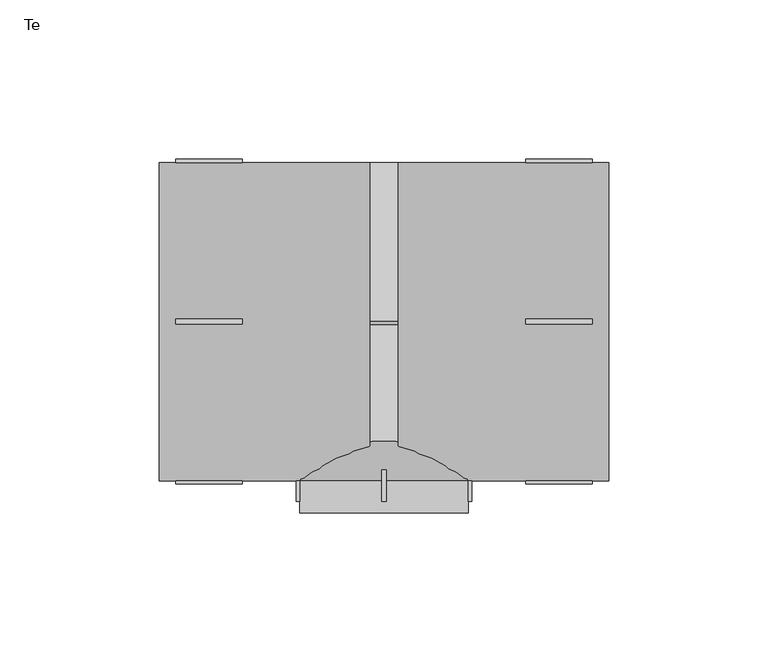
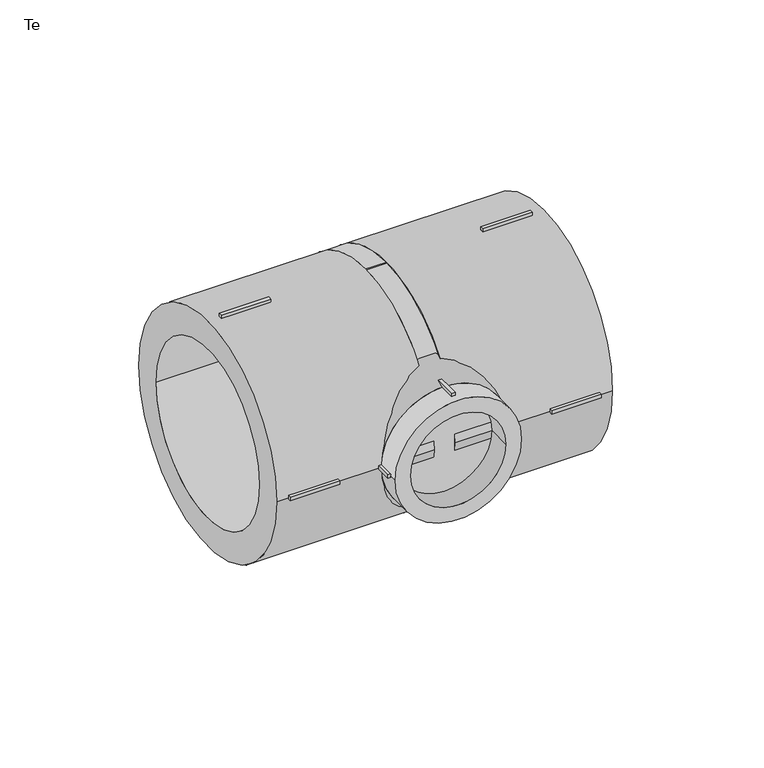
"""IFC4 building model written with IfcOpenShell, lengths in millimetres: pipe fitting geometry, EGB_VASEN_ PPR_Te WXR300_Te reducida WXR310 : Te."""

import ifcopenshell
import ifcopenshell.guid

model = None  # the IFC model being written
_history = None  # IfcOwnerHistory: only IFC2X3 demands one
_inside = {}  # id of a spatial element -> (the spatial element, [elements in it])
_under = {}  # id of a project, library or spatial element -> (it, [spatial elements below it])
_declared = {}  # id of a project -> (the project, [libraries it declares])
_typed = {}  # id of a type object -> (the type object, [elements of that type])
_made_of = {}  # id of a material, layer set ... -> (it, [elements and type objects made of it])


def new_model(schema):
    """Start an empty IFC model of exactly this schema.

    Asked for "IFC4X3", IfcOpenShell would pick the latest addendum, in which some entities
    have other attributes; the version numbers below select the first issue.
    IFC2X3 requires an IfcOwnerHistory on every rooted entity: one is made here for all.
    """
    global model, _history
    if schema == "IFC4X3":
        model = ifcopenshell.file(schema_version=(4, 3, 0, 0))
    else:
        model = ifcopenshell.file(schema=schema)
    _inside.clear()
    _under.clear()
    _declared.clear()
    _typed.clear()
    _made_of.clear()
    _history = None
    if model.schema == "IFC2X3":
        org = make("IfcOrganization", Name="unknown")
        user = make(
            "IfcPersonAndOrganization",
            ThePerson=make("IfcPerson", FamilyName="unknown"),
            TheOrganization=org,
        )
        app = make(
            "IfcApplication",
            ApplicationDeveloper=org,
            Version="unknown",
            ApplicationFullName="unknown",
            ApplicationIdentifier="unknown",
        )
        _history = make(
            "IfcOwnerHistory",
            OwningUser=user,
            OwningApplication=app,
            ChangeAction="ADDED",
            CreationDate=0,
        )
    return model


def make(cls, **values):
    """One entity of the class cls with the attributes given. An attribute that is None is left unset."""
    return model.create_entity(
        cls, **{name: value for name, value in values.items() if value is not None}
    )


def rooted(cls, **values):
    """An entity with a GlobalId (a new one), such as an element, a storey or a relation."""
    return make(cls, GlobalId=ifcopenshell.guid.new(), OwnerHistory=_history, **values)


def si_unit(unit_type, name, prefix=None):
    """IfcSIUnit, for example si_unit("LENGTHUNIT", "METRE", prefix="MILLI")."""
    return make("IfcSIUnit", UnitType=unit_type, Prefix=prefix, Name=name)


def assignment(units):
    """IfcUnitAssignment: the units of a project."""
    return None if units is None else make("IfcUnitAssignment", Units=units)


def point(xyz):
    """IfcCartesianPoint."""
    return None if xyz is None else make("IfcCartesianPoint", Coordinates=xyz)


def direction(xyz):
    """IfcDirection."""
    return None if xyz is None else make("IfcDirection", DirectionRatios=xyz)


def frame(location, z_axis=None, x_axis=None):
    """IfcAxis2Placement3D, a coordinate frame: its origin and axes. An axis left out is left unset."""
    return make(
        "IfcAxis2Placement3D",
        Location=point(location),
        Axis=direction(z_axis),
        RefDirection=direction(x_axis),
    )


def frame_2d(location, x_axis=None):
    """IfcAxis2Placement2D, a coordinate frame in the plane: its origin and x axis."""
    return make(
        "IfcAxis2Placement2D", Location=point(location), RefDirection=direction(x_axis)
    )


def origin():
    """The frame at (0, 0, 0) with its axes left unset."""
    return frame((0.0, 0.0, 0.0))


def origin_2d():
    """The frame at (0, 0) in the plane with its x axis left unset."""
    return frame_2d((0.0, 0.0))


def place(relative_to, where):
    """IfcLocalPlacement: puts the frame where relative to a parent placement (None: the world)."""
    return make(
        "IfcLocalPlacement", PlacementRelTo=relative_to, RelativePlacement=where
    )


def context(
    kind, dimensions, precision=None, world=None, true_north=None, identifier=None
):
    """IfcGeometricRepresentationContext, for example the 3D "Model" context."""
    return make(
        "IfcGeometricRepresentationContext",
        ContextIdentifier=identifier,
        ContextType=kind,
        CoordinateSpaceDimension=dimensions,
        Precision=precision,
        WorldCoordinateSystem=world,
        TrueNorth=true_north,
    )


def project(units=None, contexts=None):
    """IfcProject with its units and contexts."""
    return rooted(
        "IfcProject",
        Name="project",
        RepresentationContexts=contexts,
        UnitsInContext=assignment(units),
    )


def spatial(cls, under=None, at=None, **own):
    """A site, building, storey or space (cls), placed at a placement, below another one or the project."""
    s = rooted(cls, ObjectPlacement=at, **own)
    if under is not None:
        _under.setdefault(under.id(), (under, []))[1].append(s)
    return s


def polyline(points):
    """IfcPolyline through the points."""
    return make("IfcPolyline", Points=[point(p) for p in points])


def circle_curve(where, radius):
    """IfcCircle in the frame where."""
    return make("IfcCircle", Position=where, Radius=radius)


def trimmed(basis, trim1, trim2, sense, master):
    """IfcTrimmedCurve: the piece of a basis curve between two trims."""
    return make(
        "IfcTrimmedCurve",
        BasisCurve=basis,
        Trim1=trim1,
        Trim2=trim2,
        SenseAgreement=sense,
        MasterRepresentation=master,
    )


def segment(curve, same_sense, transition):
    """IfcCompositeCurveSegment."""
    return make(
        "IfcCompositeCurveSegment",
        Transition=transition,
        SameSense=same_sense,
        ParentCurve=curve,
    )


def composite_curve(segments, self_intersect=None):
    """IfcCompositeCurve: segments joined end to end."""
    return make("IfcCompositeCurve", Segments=segments, SelfIntersect=self_intersect)


def outline(outer, holes=None, kind="AREA"):
    """IfcArbitraryClosedProfileDef: a profile drawn as a closed curve; with holes, ...WithVoids."""
    if holes is None:
        return make("IfcArbitraryClosedProfileDef", ProfileType=kind, OuterCurve=outer)
    return make(
        "IfcArbitraryProfileDefWithVoids",
        ProfileType=kind,
        OuterCurve=outer,
        InnerCurves=holes,
    )


def extrude(swept, where, along, depth):
    """IfcExtrudedAreaSolid: the profile swept, set in the frame where, extruded along a direction by depth."""
    return make(
        "IfcExtrudedAreaSolid",
        SweptArea=swept,
        Position=where,
        ExtrudedDirection=direction(along),
        Depth=depth,
    )


def shape(context_of_items, identifier, shape_type, items):
    """IfcShapeRepresentation: the items that make up one representation, for example the "Body"."""
    return make(
        "IfcShapeRepresentation",
        ContextOfItems=context_of_items,
        RepresentationIdentifier=identifier,
        RepresentationType=shape_type,
        Items=items,
    )


def source(mapping_origin, context_of_items, identifier, shape_type, items):
    """IfcRepresentationMap: a shape defined once, which mapped items show again and again."""
    return make(
        "IfcRepresentationMap",
        MappingOrigin=mapping_origin,
        MappedRepresentation=shape(context_of_items, identifier, shape_type, items),
    )


def transform(
    local_origin,
    x_axis=None,
    y_axis=None,
    z_axis=None,
    scale=None,
    scale2=None,
    scale3=None,
    uniform=True,
):
    """IfcCartesianTransformationOperator3D, or its non-uniform kind. x_axis, y_axis, z_axis: its Axis1, 2, 3."""
    if uniform:
        return make(
            "IfcCartesianTransformationOperator3D",
            Axis1=direction(x_axis),
            Axis2=direction(y_axis),
            LocalOrigin=point(local_origin),
            Scale=scale,
            Axis3=direction(z_axis),
        )
    return make(
        "IfcCartesianTransformationOperator3DnonUniform",
        Axis1=direction(x_axis),
        Axis2=direction(y_axis),
        LocalOrigin=point(local_origin),
        Scale=scale,
        Axis3=direction(z_axis),
        Scale2=scale2,
        Scale3=scale3,
    )


def mapped(mapping_source, mapping_target):
    """IfcMappedItem: shows the shape of a source again, moved by a transform."""
    return make(
        "IfcMappedItem", MappingSource=mapping_source, MappingTarget=mapping_target
    )


def made_of(thing, what):
    """Note that an element or type object is made of a material, layer set ...; save() writes the relation."""
    if what is not None:
        _made_of.setdefault(what.id(), (what, []))[1].append(thing)
    return thing


def element(
    cls,
    number,
    at=None,
    inside=None,
    cuts=None,
    type_object=None,
    material=None,
    context=None,
    identifier="Body",
    shape_type=None,
    held_by="IfcProductDefinitionShape",
    body=None,
    shapes=None,
    **own,
):
    """One element of the class cls, such as IfcWall. Its Tag is "e" and its number.

    at: its placement. inside: the storey or other place that contains it. cuts: it is an
    opening in that element (IfcRelVoidsElement). A single representation is given by context,
    identifier, shape_type and body (its items); several are given by shapes. held_by: the class
    of the entity that holds the representations. save() writes the other relations.
    """
    e = rooted(cls, Tag="e%d" % number, ObjectPlacement=at, **own)
    if body is not None:
        shapes = [shape(context, identifier, shape_type, body)]
    if shapes is not None:
        e.Representation = make(held_by, Representations=shapes)
    if inside is not None:
        _inside.setdefault(inside.id(), (inside, []))[1].append(e)
    if cuts is not None:
        rooted(
            "IfcRelVoidsElement", RelatingBuildingElement=cuts, RelatedOpeningElement=e
        )
    if type_object is not None:
        _typed.setdefault(type_object.id(), (type_object, []))[1].append(e)
    return made_of(e, material)


def aggregate(whole, parts):
    """IfcRelAggregates: a whole, such as a stair, and the parts it consists of."""
    return rooted("IfcRelAggregates", RelatingObject=whole, RelatedObjects=parts)


def save(model, path):
    """Write the relations noted so far, then the file.

    IfcRelAggregates (storeys below a building ...), IfcRelContainedInSpatialStructure (elements
    in a storey), IfcRelDefinesByType, IfcRelAssociatesMaterial and IfcRelDeclares: one each for
    every whole, place, type object, material and project.
    """
    for whole, parts in _under.values():
        aggregate(whole, parts)
    for where, things in _inside.values():
        rooted(
            "IfcRelContainedInSpatialStructure",
            RelatedElements=things,
            RelatingStructure=where,
        )
    for kind, things in _typed.values():
        rooted("IfcRelDefinesByType", RelatedObjects=things, RelatingType=kind)
    for what, things in _made_of.values():
        rooted("IfcRelAssociatesMaterial", RelatedObjects=things, RelatingMaterial=what)
    for by, libraries in _declared.values():
        rooted("IfcRelDeclares", RelatingContext=by, RelatedDefinitions=libraries)
    model.write(path)


def plane_surface(at):
    """IfcPlane: the flat surface through the origin of the frame at, square to its z axis."""
    return make("IfcPlane", Position=at)


def revolved_surface(curve, axis_point, axis_direction):
    """IfcSurfaceOfRevolution: the curve turned about the line through axis_point along axis_direction."""
    return make(
        "IfcSurfaceOfRevolution",
        SweptCurve=make("IfcArbitraryOpenProfileDef", ProfileType="CURVE", Curve=curve),
        AxisPosition=make("IfcAxis1Placement", Location=point(axis_point), Axis=direction(axis_direction)),
    )


def advanced_brep(points, edges, surfaces, faces):
    """IfcAdvancedBrep: a solid bounded by faces that lie on surfaces and meet in shared edges.

    An edge is (start, end): straight between two places in points (the first is 0);
    or (start, end, curve); or (start, end, curve, False) where it runs against its curve.
    A face is (place in surfaces, loops), or (place, loops, False) where it looks against
    its surface's normal. A loop lists edges by number (the first is 1), with a minus sign
    where the edge is run from its end to its start. The first loop is the outer one.
    """
    corners = [point(p) for p in points]
    vertices = [make("IfcVertexPoint", VertexGeometry=c) for c in corners]
    made = []
    for start, end, *more in edges:
        made.append(
            make(
                "IfcEdgeCurve",
                EdgeStart=vertices[start],
                EdgeEnd=vertices[end],
                EdgeGeometry=more[0] if more else make("IfcPolyline", Points=[corners[start], corners[end]]),
                SameSense=more[1] if len(more) > 1 else True,
            )
        )
    hull = []
    for where, loops, *sense in faces:
        bounds = []
        for j, loop in enumerate(loops):
            ring = [make("IfcOrientedEdge", EdgeElement=made[abs(k) - 1], Orientation=k > 0) for k in loop]
            bounds.append(
                make(
                    "IfcFaceOuterBound" if j == 0 else "IfcFaceBound",
                    Bound=make("IfcEdgeLoop", EdgeList=ring),
                    Orientation=True,
                )
            )
        hull.append(make("IfcAdvancedFace", Bounds=bounds, FaceSurface=surfaces[where], SameSense=sense[0] if sense else True))
    return make("IfcAdvancedBrep", Outer=make("IfcClosedShell", CfsFaces=hull))


def te_f66600c7(model_context):
    return source(origin(), model_context, "Body", "SolidModel", [
        extrude(outline(polyline([(-0.75, -42.0), (0.75, -42.0), (0.75, -56.4), (-0.75, -56.4), (-0.75, -42.0)])), frame((0.0, 0.0, 25.5), z_axis=(0.0, 0.0, 1.0), x_axis=(1.0, 0.0, 0.0)), (0.0, 0.0, 1.0), 2.0),
        extrude(outline(polyline([(-0.75, -42.0), (0.75, -42.0), (0.75, -56.4), (-0.75, -56.4), (-0.75, -42.0)])), frame((0.0, 0.0, -27.5), z_axis=(0.0, 0.0, 1.0), x_axis=(1.0, 0.0, 0.0)), (0.0, 0.0, 1.0), 2.0),
        extrude(outline(polyline([(25.5, -42.0), (27.5, -42.0), (27.5, -56.4), (25.5, -56.4), (25.5, -42.0)])), frame((0.0, 0.0, -0.75), z_axis=(0.0, 0.0, 1.0), x_axis=(1.0, 0.0, 0.0)), (0.0, 0.0, 1.0), 1.5),
        extrude(outline(polyline([(-27.5, -42.0), (-25.5, -42.0), (-25.5, -56.4), (-27.5, -56.4), (-27.5, -42.0)])), frame((0.0, 0.0, -0.75), z_axis=(0.0, 0.0, 1.0), x_axis=(1.0, 0.0, 0.0)), (0.0, 0.0, 1.0), 1.5),
        extrude(outline(polyline([(44.5, -0.75), (44.5, 0.75), (65.3, 0.75), (65.3, -0.75), (44.5, -0.75)])), frame((0.0, 0.0, 49.0), z_axis=(0.0, 0.0, 1.0), x_axis=(1.0, 0.0, 0.0)), (0.0, 0.0, 1.0), 2.0),
        extrude(outline(polyline([(44.5, -0.75), (44.5, 0.75), (65.3, 0.75), (65.3, -0.75), (44.5, -0.75)])), frame((0.0, 0.0, -51.0), z_axis=(0.0, 0.0, 1.0), x_axis=(1.0, 0.0, 0.0)), (0.0, 0.0, 1.0), 2.0),
        extrude(outline(polyline([(44.5, 49.0), (44.5, 51.0), (65.3, 51.0), (65.3, 49.0), (44.5, 49.0)])), frame((0.0, 0.0, -0.75), z_axis=(0.0, 0.0, 1.0), x_axis=(1.0, 0.0, 0.0)), (0.0, 0.0, 1.0), 1.5),
        extrude(outline(polyline([(44.5, -51.0), (44.5, -49.0), (65.3, -49.0), (65.3, -51.0), (44.5, -51.0)])), frame((0.0, 0.0, -0.75), z_axis=(0.0, 0.0, 1.0), x_axis=(1.0, 0.0, 0.0)), (0.0, 0.0, 1.0), 1.5),
        extrude(outline(polyline([(-44.5, 0.75), (-44.5, -0.75), (-65.3, -0.75), (-65.3, 0.75), (-44.5, 0.75)])), frame((0.0, 0.0, 49.0), z_axis=(0.0, 0.0, 1.0), x_axis=(1.0, 0.0, 0.0)), (0.0, 0.0, 1.0), 2.0),
        extrude(outline(polyline([(-44.5, 0.75), (-44.5, -0.75), (-65.3, -0.75), (-65.3, 0.75), (-44.5, 0.75)])), frame((0.0, 0.0, -51.0), z_axis=(0.0, 0.0, 1.0), x_axis=(1.0, 0.0, 0.0)), (0.0, 0.0, 1.0), 2.0),
        extrude(outline(polyline([(-44.5, 51.0), (-44.5, 49.0), (-65.3, 49.0), (-65.3, 51.0), (-44.5, 51.0)])), frame((0.0, 0.0, -0.75), z_axis=(0.0, 0.0, 1.0), x_axis=(1.0, 0.0, 0.0)), (0.0, 0.0, 1.0), 1.5),
        extrude(outline(polyline([(-44.5, -49.0), (-44.5, -51.0), (-65.3, -51.0), (-65.3, -49.0), (-44.5, -49.0)])), frame((0.0, 0.0, -0.75), z_axis=(0.0, 0.0, 1.0), x_axis=(1.0, 0.0, 0.0)), (0.0, 0.0, 1.0), 1.5),
        extrude(outline(composite_curve([segment(trimmed(circle_curve(origin_2d(), 26.5), [point((0.0, 26.5))], [point((0.0, -26.5))], False, "CARTESIAN"), True, "CONTINUOUS"), segment(trimmed(circle_curve(origin_2d(), 26.5), [point((0.0, -26.5))], [point((0.0, 26.5))], False, "CARTESIAN"), True, "CONTINUOUS")], self_intersect=False), holes=[composite_curve([segment(trimmed(circle_curve(origin_2d(), 20.0), [point((0.0, 20.0))], [point((0.0, -20.0))], True, "CARTESIAN"), True, "CONTINUOUS"), segment(trimmed(circle_curve(origin_2d(), 20.0), [point((0.0, -20.0))], [point((0.0, 20.0))], True, "CARTESIAN"), True, "CONTINUOUS")], self_intersect=False)]), frame((0.0, -60.0, 0.0), z_axis=(0.0, 1.0, 0.0), x_axis=(0.0, 0.0, 1.0)), (0.0, 0.0, 1.0), 10.0),
        extrude(outline(composite_curve([segment(trimmed(circle_curve(origin_2d(), 50.0), [point((-50.0, 0.0))], [point((50.0, 0.0))], False, "CARTESIAN"), True, "CONTINUOUS"), segment(trimmed(circle_curve(origin_2d(), 50.0), [point((50.0, 0.0))], [point((-50.0, 0.0))], False, "CARTESIAN"), True, "CONTINUOUS")], self_intersect=False), holes=[composite_curve([segment(trimmed(circle_curve(origin_2d(), 37.5), [point((-37.5, 0.0))], [point((37.5, 0.0))], True, "CARTESIAN"), True, "CONTINUOUS"), segment(trimmed(circle_curve(origin_2d(), 37.5), [point((37.5, 0.0))], [point((-37.5, 0.0))], True, "CARTESIAN"), True, "CONTINUOUS")], self_intersect=False)]), frame((4.4, 0.0, 0.0), z_axis=(1.0, 0.0, 0.0), x_axis=(0.0, 1.0, 0.0)), (0.0, 0.0, 1.0), 66.1),
        extrude(outline(composite_curve([segment(trimmed(circle_curve(origin_2d(), 50.0), [point((-50.0, 0.0))], [point((50.0, 0.0))], False, "CARTESIAN"), True, "CONTINUOUS"), segment(trimmed(circle_curve(origin_2d(), 50.0), [point((50.0, 0.0))], [point((-50.0, 0.0))], False, "CARTESIAN"), True, "CONTINUOUS")], self_intersect=False), holes=[composite_curve([segment(trimmed(circle_curve(origin_2d(), 37.5), [point((-37.5, 0.0))], [point((37.5, 0.0))], True, "CARTESIAN"), True, "CONTINUOUS"), segment(trimmed(circle_curve(origin_2d(), 37.5), [point((37.5, 0.0))], [point((-37.5, 0.0))], True, "CARTESIAN"), True, "CONTINUOUS")], self_intersect=False)]), frame((-70.5, 0.0, 0.0), z_axis=(1.0, 0.0, 0.0), x_axis=(0.0, 1.0, 0.0)), (0.0, 0.0, 1.0), 66.1),
        advanced_brep(
        [(50.0, 0.0, 0.0), (-50.0, 0.0, 0.0), (26.5, -50.0, 0.0), (-26.5, -50.0, 0.0)],
        [
            (0, 1, circle_curve(frame((0.0, 0.0, 0.0), z_axis=(0.0, 1.0, 0.0), x_axis=(1.0, 0.0, 0.0)), 50.0)),
            (1, 0, circle_curve(frame((0.0, 0.0, 0.0), z_axis=(0.0, 1.0, 0.0), x_axis=(-1.0, 0.0, 0.0)), 50.0)),
            (2, 3, circle_curve(frame((0.0, -50.0, 0.0), z_axis=(0.0, -1.0, 0.0), x_axis=(-1.0, 0.0, 0.0)), 26.5)),
            (3, 2, circle_curve(frame((0.0, -50.0, 0.0), z_axis=(0.0, -1.0, 0.0), x_axis=(1.0, 0.0, 0.0)), 26.5)),
            (3, 1),
            (0, 2),
        ],
        [
            plane_surface(frame((0.0, 0.0, 0.0), z_axis=(0.0, 1.0, 0.0), x_axis=(0.0, 0.0, -1.0))),
            plane_surface(frame((0.0, -50.0, 0.0), z_axis=(0.0, -1.0, 0.0), x_axis=(0.0, 0.0, -1.0))),
            revolved_surface(polyline([(-26.49999999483, -50.0, 0.0), (-50.0, 0.0, 0.0)]), (0.0, -106.3829787, 0.0), (0.0, 1.0, 0.0)),
            revolved_surface(polyline([(26.49999999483, -50.0, 0.0), (50.0, 0.0, 0.0)]), (0.0, -106.3829787, 0.0), (0.0, 1.0, 0.0)),
        ],
        [
            (0, [[1, 2]]),
            (1, [[3, 4]]),
            (2, [[-4, 5, -1, 6]]),
            (3, [[-3, -6, -2, -5]]),
        ],
    ),
        extrude(outline(composite_curve([segment(trimmed(circle_curve(origin_2d(), 50.0), [point((-50.0, 0.0))], [point((50.0, 0.0))], False, "CARTESIAN"), True, "CONTINUOUS"), segment(trimmed(circle_curve(origin_2d(), 50.0), [point((50.0, 0.0))], [point((-50.0, 0.0))], False, "CARTESIAN"), True, "CONTINUOUS")], self_intersect=False)), frame((-4.4, 0.0, 0.0), z_axis=(1.0, 0.0, 0.0), x_axis=(0.0, 1.0, 0.0)), (0.0, 0.0, 1.0), 8.8),
    ])


if __name__ == "__main__":
    model = new_model("IFC4")
    model_context = context("Model", 3, world=origin())
    ifc_project = project(units=[si_unit("LENGTHUNIT", "METRE", prefix="MILLI")], contexts=[model_context])
    site = spatial("IfcSite", under=ifc_project)
    building = spatial("IfcBuilding", under=site)
    placement = place(None, origin())
    te_shape = te_f66600c7(model_context)
    element("IfcPipeFitting", 1, ObjectType="EGB_VASEN_ PPR_Te WXR300_Te reducida WXR310 : Te", at=placement, inside=building, context=model_context, shape_type="MappedRepresentation", body=[
        mapped(te_shape, transform((0.0, 0.0, 0.0), x_axis=(1.0, 0.0, 0.0), y_axis=(0.0, 1.0, 0.0), z_axis=(0.0, 0.0, 1.0))),
    ])
    save(model, "model.ifc")
